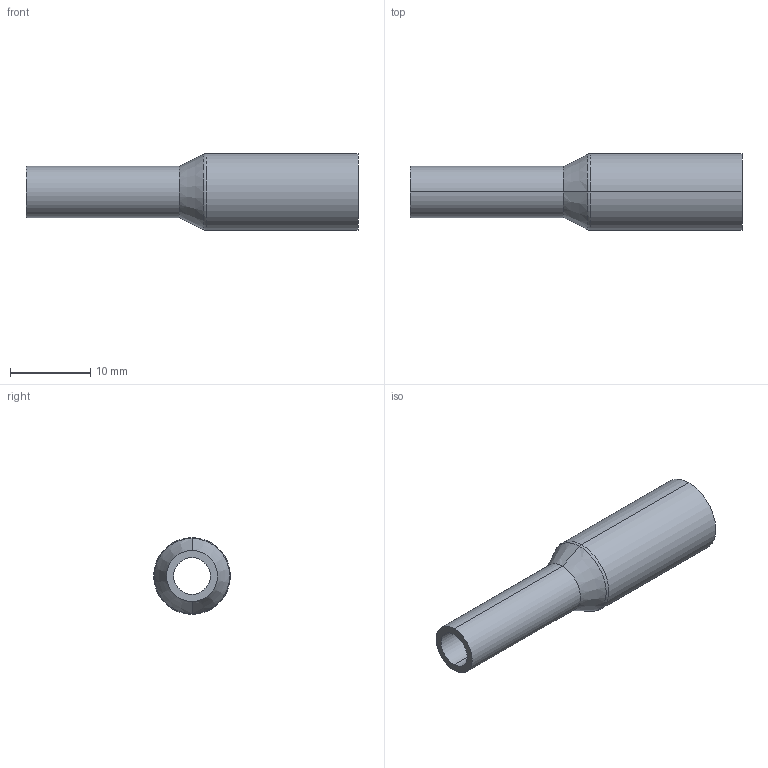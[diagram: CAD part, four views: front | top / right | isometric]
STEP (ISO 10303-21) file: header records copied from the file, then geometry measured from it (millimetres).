
FILE_DESCRIPTION (( 'STEP AP214' ), '1' );
FILE_NAME ('TE31SWW6L.375x.25-...STEP', '2016-05-29T09:56:23', ( 'eran' ), ( '' ), 'SwSTEP 2.0', 'SolidWorks 2016', '' );
FILE_SCHEMA (( 'AUTOMOTIVE_DESIGN' ));
Length unit declared in the file: millimetre
Products named in the file (1): TE31SWW6L.375x.25-..
Bounding box: 41.27 x 9.53 x 9.53 mm (x, y, z)
Volume: 1066.7 mm3; surface area: 1799 mm2
Topology: 1 solids, 1 shells, 18 faces, 36 edges, 20 vertices
Faces by surface type: cylinder 8, torus 4, cone 4, plane 2
Entity records: 506 total; most frequent: DIRECTION 98, CARTESIAN_POINT 75, ORIENTED_EDGE 72, AXIS2_PLACEMENT_3D 43, EDGE_CURVE 36, CIRCLE 24, VERTEX_POINT 20, EDGE_LOOP 20
